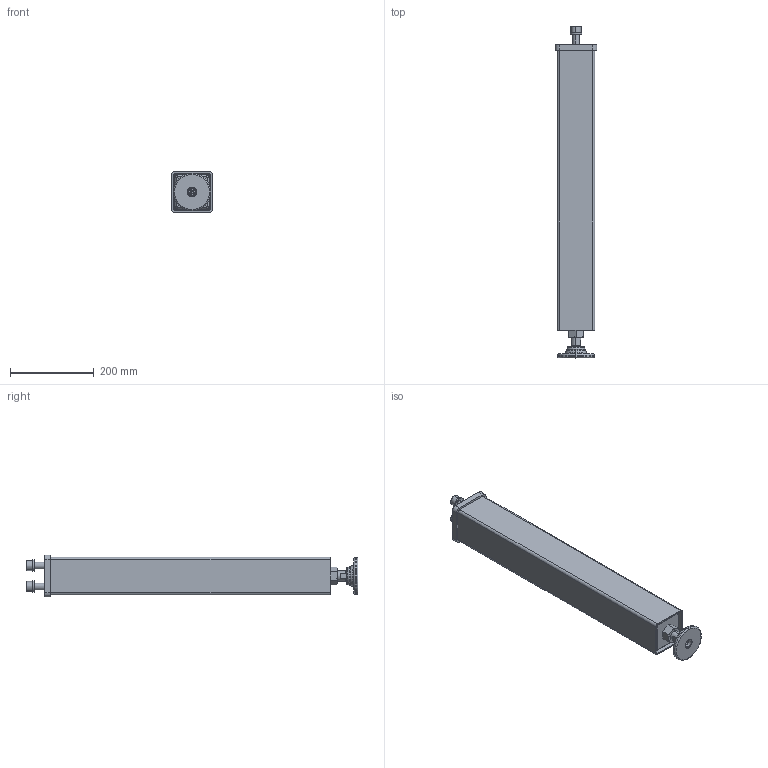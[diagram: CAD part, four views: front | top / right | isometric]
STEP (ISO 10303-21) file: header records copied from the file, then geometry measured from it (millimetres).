
FILE_DESCRIPTION (( 'STEP AP203' ), '1' );
FILE_NAME ('280857.STEP', '2020-07-07T07:31:45', ( '' ), ( '' ), 'SwSTEP 2.0', 'SolidWorks 2019', '' );
FILE_SCHEMA (( 'CONFIG_CONTROL_DESIGN' ));
Length unit declared in the file: millimetre
Products named in the file (12): ISO 8673 M24x1,5-verzinkt_0; Federring DIN 127 B - 16 - verzinkt; Aufnahme^280857.X.T1 Schweißteil Fuß; M 24x1,5 Spindel 100^280855.X.1 Fußteller mit Spindel_ohne gew; Hohlprofil 90x90x3^280857.X.T1 Schweißteil Fuß_Standard<Wie bearbeitet>; 280855.X.1 Fußteller mit Spindel_Einfach; 280857.X.T1 Schweißteil Fuß_Zusammen; ISO 4762 - M16 x 50 - verzinkt_0; Fussteller^280855.X.1 Fußteller mit Spindel; 280857; Platte ^280857.X.T1 Schweißteil Fuß; ISO 4762 - M12 x 25 - verzinkt_0
Assembly tree (13 placements, depth 3):
  280857
    280857.X.T1 Schweißteil Fuß_Zusammen
      Hohlprofil 90x90x3^280857.X.T1 Schweißteil Fuß_Standard<Wie bearbeitet>
      Platte ^280857.X.T1 Schweißteil Fuß
      Aufnahme^280857.X.T1 Schweißteil Fuß
    280855.X.1 Fußteller mit Spindel_Einfach
      M 24x1,5 Spindel 100^280855.X.1 Fußteller mit Spindel_ohne gew
      Fussteller^280855.X.1 Fußteller mit Spindel
      ISO 4762 - M12 x 25 - verzinkt_0
    ISO 8673 M24x1,5-verzinkt_0
    ISO 4762 - M16 x 50 - verzinkt_0  x2
    Federring DIN 127 B - 16 - verzinkt  x2
Bounding box: 100 x 794.5 x 100 mm (x, y, z)
Volume: 1152986.1 mm3; surface area: 550955 mm2
Topology: 11 solids, 11 shells, 218 faces, 493 edges, 299 vertices
Faces by surface type: plane 97, cylinder 54, cone 43, torus 24
Entity records: 6547 total; most frequent: CARTESIAN_POINT 1038, DIRECTION 965, ORIENTED_EDGE 814, EDGE_CURVE 407, AXIS2_PLACEMENT_3D 381, VERTEX_POINT 250, VECTOR 203, LINE 203
